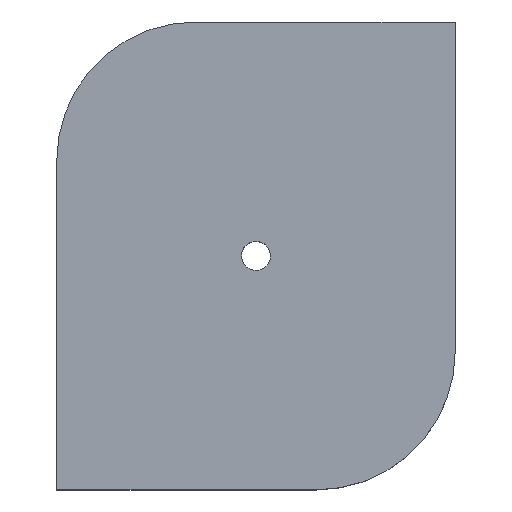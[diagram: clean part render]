
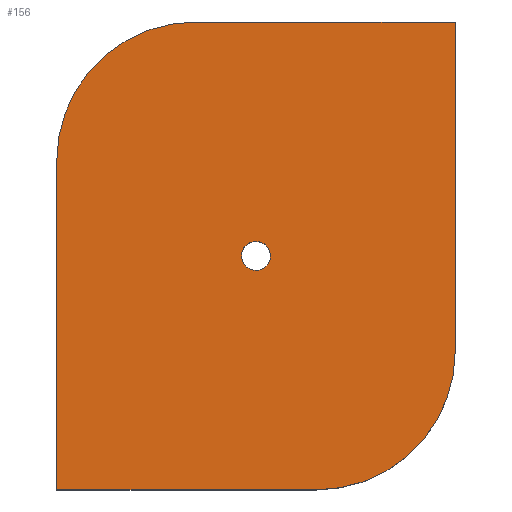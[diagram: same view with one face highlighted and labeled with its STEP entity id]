
A CAD part, top view. The second image highlights one B-rep face of the part: STEP entity #156.
In plain terms, the highlighted planar face has unit normal (0, 0, 1).
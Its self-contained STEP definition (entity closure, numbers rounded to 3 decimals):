
#63=CARTESIAN_POINT('Vertex',(53.825,69.508,30.)) ;
#77=CARTESIAN_POINT('Vertex',(61.175,65.492,30.)) ;
#80=CARTESIAN_POINT('Axis2P3D Location',(57.5,67.5,30.)) ;
#92=CARTESIAN_POINT('Axis2P3D Location',(0.,0.,30.)) ;
#97=CARTESIAN_POINT('Line Origine',(0.,47.5,30.)) ;
#101=CARTESIAN_POINT('Vertex',(0.,95.,30.)) ;
#103=CARTESIAN_POINT('Vertex',(0.,0.,30.)) ;
#106=CARTESIAN_POINT('Line Origine',(37.5,0.,30.)) ;
#110=CARTESIAN_POINT('Vertex',(75.,0.,30.)) ;
#113=CARTESIAN_POINT('Axis2P3D Location',(75.,40.,30.)) ;
#117=CARTESIAN_POINT('Vertex',(115.,40.,30.)) ;
#120=CARTESIAN_POINT('Line Origine',(115.,87.5,30.)) ;
#124=CARTESIAN_POINT('Vertex',(115.,135.,30.)) ;
#127=CARTESIAN_POINT('Line Origine',(77.5,135.,30.)) ;
#131=CARTESIAN_POINT('Vertex',(40.,135.,30.)) ;
#134=CARTESIAN_POINT('Axis2P3D Location',(40.,95.,30.)) ;
#147=CARTESIAN_POINT('Axis2P3D Location',(57.5,67.5,30.)) ;
#81=DIRECTION('Axis2P3D Direction',(0.,-0.,-1.)) ;
#93=DIRECTION('Axis2P3D Direction',(0.,0.,1.)) ;
#94=DIRECTION('Axis2P3D XDirection',(1.,0.,0.)) ;
#98=DIRECTION('Vector Direction',(0.,-1.,0.)) ;
#107=DIRECTION('Vector Direction',(1.,0.,0.)) ;
#114=DIRECTION('Axis2P3D Direction',(0.,0.,1.)) ;
#121=DIRECTION('Vector Direction',(0.,1.,0.)) ;
#128=DIRECTION('Vector Direction',(-1.,0.,0.)) ;
#135=DIRECTION('Axis2P3D Direction',(0.,0.,1.)) ;
#148=DIRECTION('Axis2P3D Direction',(0.,0.,1.)) ;
#82=AXIS2_PLACEMENT_3D('Circle Axis2P3D',#80,#81,$) ;
#95=AXIS2_PLACEMENT_3D('Plane Axis2P3D',#92,#93,#94) ;
#115=AXIS2_PLACEMENT_3D('Circle Axis2P3D',#113,#114,$) ;
#136=AXIS2_PLACEMENT_3D('Circle Axis2P3D',#134,#135,$) ;
#149=AXIS2_PLACEMENT_3D('Circle Axis2P3D',#147,#148,$) ;
#140=ORIENTED_EDGE('',*,*,#105,.T.) ;
#141=ORIENTED_EDGE('',*,*,#112,.T.) ;
#142=ORIENTED_EDGE('',*,*,#119,.F.) ;
#143=ORIENTED_EDGE('',*,*,#126,.T.) ;
#144=ORIENTED_EDGE('',*,*,#133,.T.) ;
#145=ORIENTED_EDGE('',*,*,#138,.F.) ;
#153=ORIENTED_EDGE('',*,*,#151,.F.) ;
#154=ORIENTED_EDGE('',*,*,#84,.F.) ;
#155=FACE_BOUND('',#152,.T.) ;
#99=VECTOR('Line Direction',#98,1.) ;
#108=VECTOR('Line Direction',#107,1.) ;
#122=VECTOR('Line Direction',#121,1.) ;
#129=VECTOR('Line Direction',#128,1.) ;
#156=ADVANCED_FACE('PartBody',(#146,#155),#96,.T.) ;
#83=CIRCLE('generated circle',#82,4.188) ;
#116=CIRCLE('generated circle',#115,40.) ;
#137=CIRCLE('generated circle',#136,40.) ;
#150=CIRCLE('generated circle',#149,4.188) ;
#84=EDGE_CURVE('',#78,#64,#83,.F.) ;
#105=EDGE_CURVE('',#102,#104,#100,.T.) ;
#112=EDGE_CURVE('',#104,#111,#109,.T.) ;
#119=EDGE_CURVE('',#118,#111,#116,.F.) ;
#126=EDGE_CURVE('',#118,#125,#123,.T.) ;
#133=EDGE_CURVE('',#125,#132,#130,.T.) ;
#138=EDGE_CURVE('',#102,#132,#137,.F.) ;
#151=EDGE_CURVE('',#64,#78,#150,.T.) ;
#139=EDGE_LOOP('',(#140,#141,#142,#143,#144,#145)) ;
#152=EDGE_LOOP('',(#153,#154)) ;
#146=FACE_OUTER_BOUND('',#139,.T.) ;
#100=LINE('Line',#97,#99) ;
#109=LINE('Line',#106,#108) ;
#123=LINE('Line',#120,#122) ;
#130=LINE('Line',#127,#129) ;
#96=PLANE('',#95) ;
#64=VERTEX_POINT('',#63) ;
#78=VERTEX_POINT('',#77) ;
#102=VERTEX_POINT('',#101) ;
#104=VERTEX_POINT('',#103) ;
#111=VERTEX_POINT('',#110) ;
#118=VERTEX_POINT('',#117) ;
#125=VERTEX_POINT('',#124) ;
#132=VERTEX_POINT('',#131) ;
